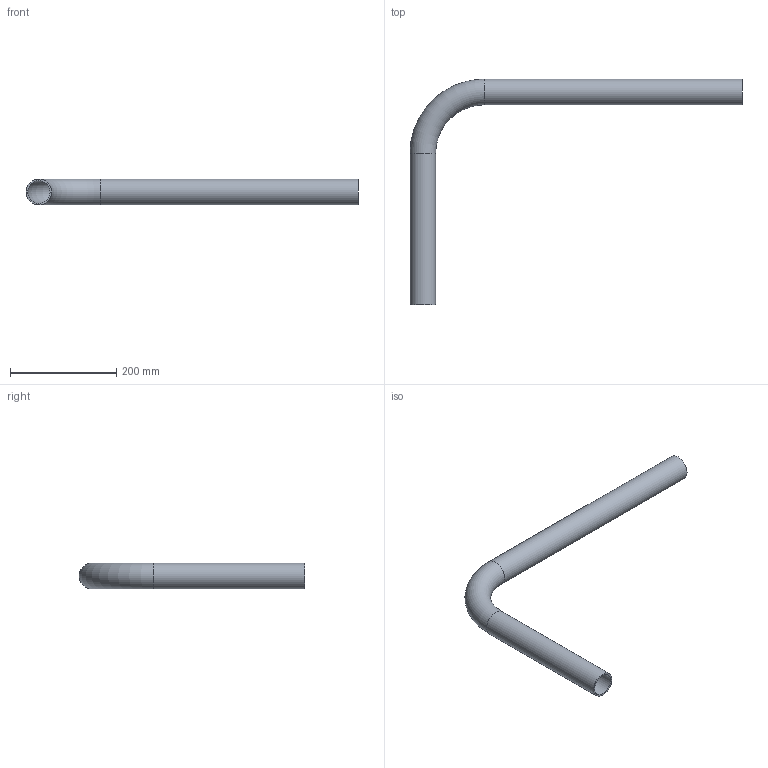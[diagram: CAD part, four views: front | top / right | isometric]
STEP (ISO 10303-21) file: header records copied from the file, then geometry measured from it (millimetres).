
FILE_DESCRIPTION (( 'STEP AP203' ), '1' );
FILE_NAME ('TK048.L.0400.0600.STEP', '2026-07-30T05:19:19', ( '' ), ( '' ), 'SwSTEP 2.0', 'SolidWorks 2022', '' );
FILE_SCHEMA (( 'CONFIG_CONTROL_DESIGN' ));
Length unit declared in the file: millimetre
Products named in the file (1): TK048.L.0400.0600
Bounding box: 624.15 x 424.15 x 48.3 mm (x, y, z)
Volume: 405869.2 mm3; surface area: 271433.4 mm2
Topology: 1 solids, 1 shells, 8 faces, 14 edges, 8 vertices
Faces by surface type: cylinder 4, torus 2, plane 2
Full cylindrical faces by diameter (mm): 42.3 x2, 48.3 x2
Entity records: 245 total; most frequent: DIRECTION 34, CARTESIAN_POINT 25, AXIS2_PLACEMENT_3D 17, EDGE_LOOP 16, ORIENTED_EDGE 16, FACE_OUTER_BOUND 14, ADVANCED_FACE 8, CIRCLE 8
